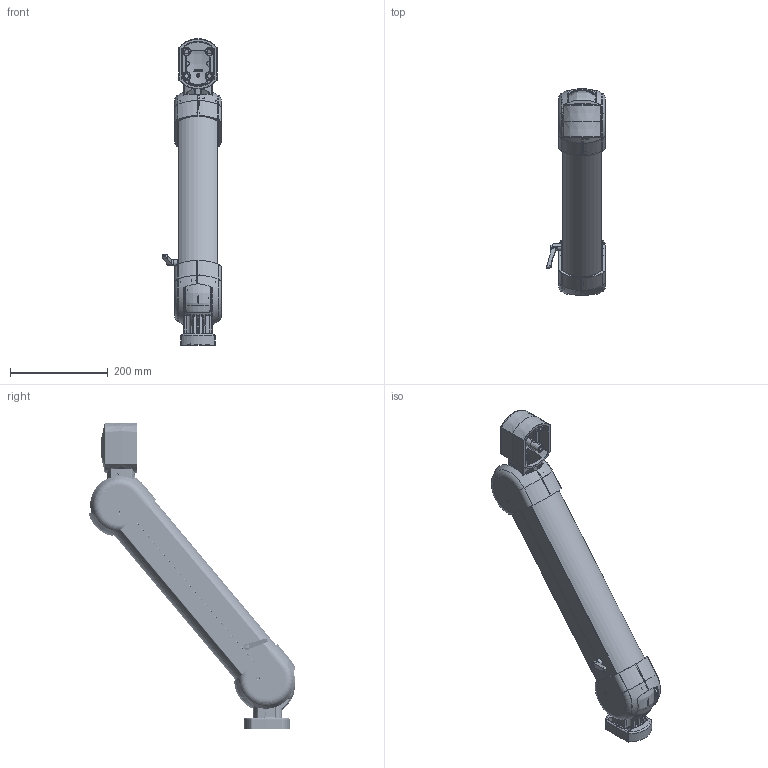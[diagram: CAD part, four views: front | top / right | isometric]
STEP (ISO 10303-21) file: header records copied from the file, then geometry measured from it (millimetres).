
FILE_DESCRIPTION((''),'2;1');
FILE_NAME('SCE-SACB31T55_ASM','2018-12-17T13:11:18',('zachary.titus'),('SAGINAW CONTROL & ENGINEERING'),'CREO PARAMETRIC BY PTC INC, 2017260','CREO PARAMETRIC BY PTC INC, 2017260','');
FILE_SCHEMA(('AUTOMOTIVE_DESIGN { 1 0 10303 214 1 1 1 1 }'));
Length unit declared in the file: millimetre
Products named in the file (35): 93424; 97064; 98897; 84187; 56918_ASM; 98911; 11187_396; 41890; 41888; 93238; 93411; 41889; 99564_DIN_912_M3_X_12_---_12C; 40000004050; 98898; 56919_ASM; 11188_481; 41891; 92453; 84189; 83129; 98120; 56920_ASM; 98910; 98293; 98907; 93304; 12111_R; 41892; 98909; 83003; 98906; 12112_R; 49844002_R_ASM; SCE-SACB31T55_ASM
Assembly tree (65 placements, depth 4):
  SCE-SACB31T55_ASM
    49844002_R_ASM
      93424  x4
      56918_ASM
        97064
        98897
        84187
      98911  x4
      11187_396
      41890  x2
      41888  x2
      93238  x2
      93411  x4
      41889  x2
      99564_DIN_912_M3_X_12_---_12C  x4
      40000004050  x2
      56919_ASM
        98898
        84187
      11188_481
      41891  x2
      92453  x4
      84189  x2
      56920_ASM  x2
        83129
        98120
      98910  x4
      98293
      98907  x3
      93304  x2
      12111_R
      41892
      98909
      83003  x2
      98906
      12112_R
Bounding box: 120.5 x 422.77 x 627.74 mm (x, y, z)
Volume: 1362393.7 mm3; surface area: 962876 mm2
Topology: 60 solids, 64 shells, 5736 faces, 14615 edges, 9040 vertices
Faces by surface type: plane 2119, cylinder 1407, bspline 628, torus 552, extrusion 479, cone 405, sphere 146
Entity records: 197138 total; most frequent: CARTESIAN_POINT 77568, ORIENTED_EDGE 18990, DIRECTION 15946, PRESENTATION_STYLE_ASSIGNMENT 9761, STYLED_ITEM 9536, EDGE_CURVE 9502, CURVE_STYLE 9474, VERTEX_POINT 5980
